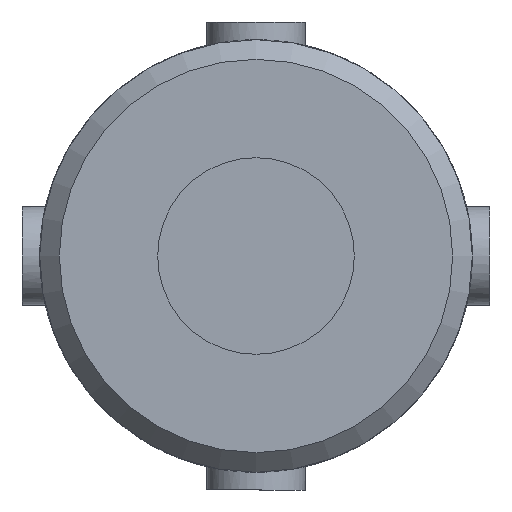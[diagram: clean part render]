
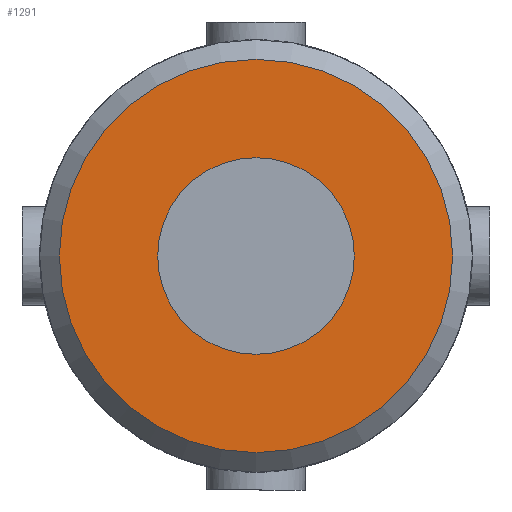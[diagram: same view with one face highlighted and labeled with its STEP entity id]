
A CAD part, left-side view. The second image highlights one B-rep face of the part: STEP entity #1291.
In plain terms, the highlighted planar face has unit normal (-1, 0, 0) as drawn and (0, -1, 0) by its records, which use the part's own axes.
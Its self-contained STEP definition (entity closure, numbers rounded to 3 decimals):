
#210=PLANE('',#1416);
#246=FACE_BOUND('',#465,.T.);
#360=FACE_OUTER_BOUND('',#464,.T.);
#464=EDGE_LOOP('',(#1120));
#465=EDGE_LOOP('',(#1121));
#529=CIRCLE('',#1411,5.);
#531=CIRCLE('',#1414,10.);
#638=VERTEX_POINT('',#2555);
#640=VERTEX_POINT('',#2560);
#802=EDGE_CURVE('',#638,#638,#529,.T.);
#804=EDGE_CURVE('',#640,#640,#531,.T.);
#1120=ORIENTED_EDGE('',*,*,#804,.F.);
#1121=ORIENTED_EDGE('',*,*,#802,.T.);
#1291=ADVANCED_FACE('',(#360,#246),#210,.F.);
#1411=AXIS2_PLACEMENT_3D('',#2556,#1685,#1686);
#1414=AXIS2_PLACEMENT_3D('',#2561,#1691,#1692);
#1416=AXIS2_PLACEMENT_3D('',#2729,#1699,#1700);
#1685=DIRECTION('center_axis',(0.,1.,0.));
#1686=DIRECTION('ref_axis',(-1.,0.,0.));
#1691=DIRECTION('center_axis',(0.,1.,0.));
#1692=DIRECTION('ref_axis',(1.,0.,0.));
#1699=DIRECTION('center_axis',(0.,1.,0.));
#1700=DIRECTION('ref_axis',(0.,0.,1.));
#2555=CARTESIAN_POINT('',(5.,-29.5,0.));
#2556=CARTESIAN_POINT('Origin',(0.,-29.5,0.));
#2560=CARTESIAN_POINT('',(-10.,-29.5,0.));
#2561=CARTESIAN_POINT('Origin',(0.,-29.5,0.));
#2729=CARTESIAN_POINT('Origin',(0.,-29.5,0.));
